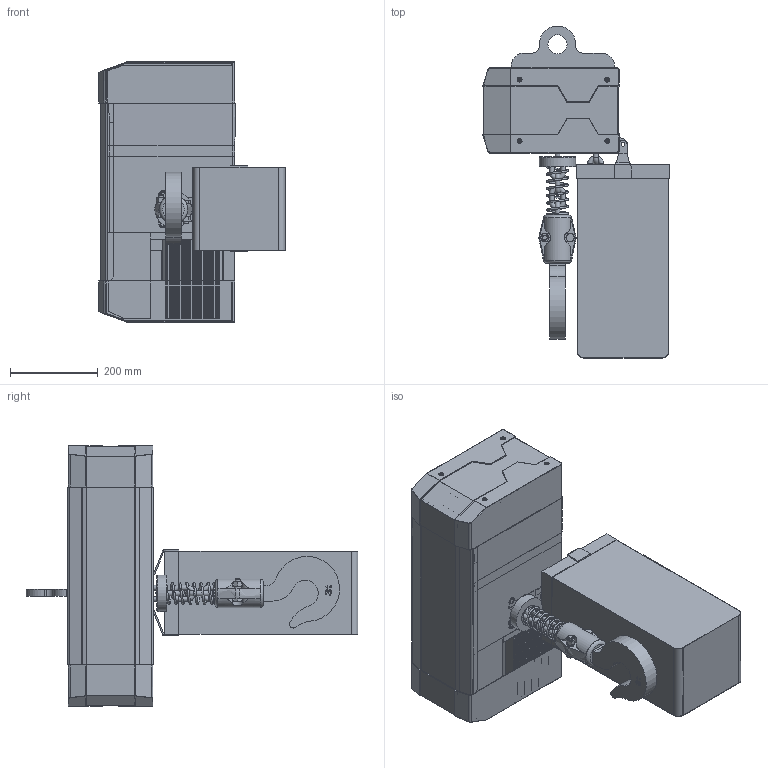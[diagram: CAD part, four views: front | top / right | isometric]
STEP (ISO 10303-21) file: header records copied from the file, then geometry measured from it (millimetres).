
FILE_DESCRIPTION(/* description */ ('CAx-IF Rec.Pracs.---Representation and Presentation of Product Manufacturing Information (PMI)---4.0---2014-10-13','CAx-IF Rec.Pracs.---3D Tessellated Geometry---0.4---2014-09-14','2;1'),/* implementation_level */ '2;1');
FILE_NAME(/* name */ 'YJ 03-01 固定式',/* time_stamp */ '2026-06-12T13:08:19+08:00',/* author */ (''),/* organization */ (''),/* preprocessor_version */ 'ST-DEVELOPER v16.7',/* originating_system */ $,/* authorisation */ $);
FILE_SCHEMA (('AP242_MANAGED_MODEL_BASED_3D_ENGINEERING_MIM_LF { 1 0 10303 442 20130219 1 4 }'));
Products named in the file (1): YJ 03-01 固定式
Bounding box: 424.21 x 756.5 x 593 mm (x, y, z)
Volume: 31943006.6 mm3; surface area: 2654289.4 mm2
Topology: 19 solids, 28 shells, 2583 faces, 6941 edges, 4238 vertices
Faces by surface type: plane 1052, cylinder 933, torus 263, bspline 176, cone 96, sphere 63
Full cylindrical faces by diameter (mm): 2 x4, 2.4 x8, 3.5 x4, 5.795 x8, 6 x1, 6.3 x4, 6.4 x2, 6.6 x8, 7.46 x1, 9 x2, 10 x8, 10.3 x13, 10.579 x2, 11.2 x30, 11.701 x2, 13 x2, 16.63 x2, 21 x1, 30 x2, 31 x1, 43.5 x1, 47 x1, 55 x1, 83 x1
Entity records: 90736 total; most frequent: CARTESIAN_POINT 28103, ORIENTED_EDGE 13106, DIRECTION 12347, EDGE_CURVE 6553, AXIS2_PLACEMENT_3D 4260, VERTEX_POINT 4119, LINE 3843, VECTOR 3843
